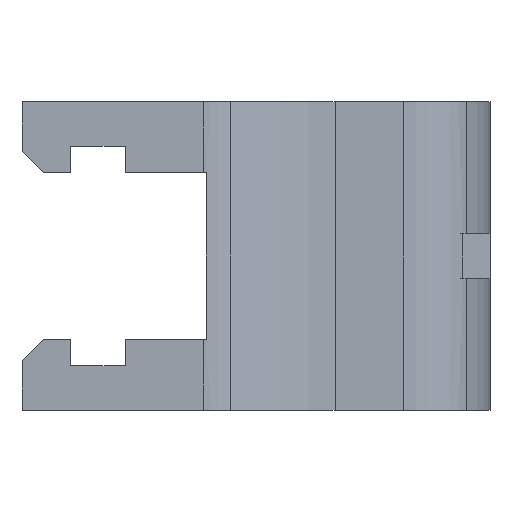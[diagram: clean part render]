
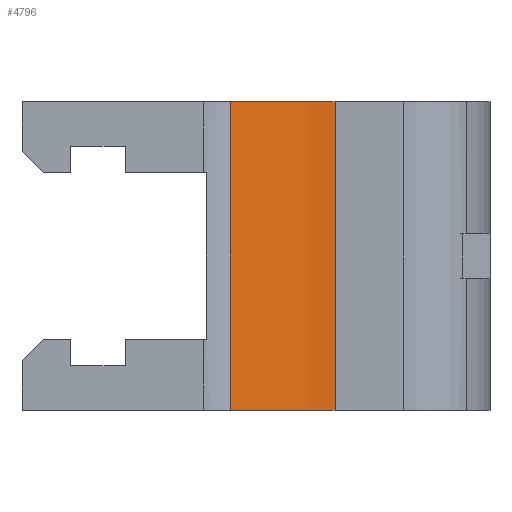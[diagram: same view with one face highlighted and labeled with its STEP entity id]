
A CAD part, left-side view. The second image highlights one B-rep face of the part: STEP entity #4796.
In plain terms, the highlighted cylindrical face has radius 8 mm (diameter 16 mm), a partial arc.
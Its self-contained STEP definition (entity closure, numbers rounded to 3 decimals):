
#27 = ORIENTED_EDGE ( 'NONE', *, *, #6730, .T. ) ;
#461 = CYLINDRICAL_SURFACE ( 'NONE', #3789, 8. ) ;
#752 = VERTEX_POINT ( 'NONE', #1226 ) ;
#824 = CIRCLE ( 'NONE', #3809, 8. ) ;
#1023 = FACE_OUTER_BOUND ( 'NONE', #6643, .T. ) ;
#1146 = CARTESIAN_POINT ( 'NONE',  ( -12.25, -5.311, -6.2 ) ) ;
#1226 = CARTESIAN_POINT ( 'NONE',  ( -11.05, -9.525, -6.2 ) ) ;
#1239 = VERTEX_POINT ( 'NONE', #1967 ) ;
#1353 = EDGE_CURVE ( 'NONE', #752, #3707, #7347, .T. ) ;
#1580 = CARTESIAN_POINT ( 'NONE',  ( -11.05, -9.525, 6.2 ) ) ;
#1695 = ORIENTED_EDGE ( 'NONE', *, *, #1353, .T. ) ;
#1967 = CARTESIAN_POINT ( 'NONE',  ( -12.25, -5.311, -6.2 ) ) ;
#2150 = CARTESIAN_POINT ( 'NONE',  ( -19.05, -9.525, -6.2 ) ) ;
#2224 = CARTESIAN_POINT ( 'NONE',  ( -12.25, -5.311, 6.2 ) ) ;
#2375 = CIRCLE ( 'NONE', #6802, 8. ) ;
#2680 = CARTESIAN_POINT ( 'NONE',  ( -19.05, -9.525, 6.2 ) ) ;
#3228 = DIRECTION ( 'NONE',  ( 0., 0., 1. ) ) ;
#3401 = ORIENTED_EDGE ( 'NONE', *, *, #7105, .T. ) ;
#3416 = ORIENTED_EDGE ( 'NONE', *, *, #4908, .F. ) ;
#3707 = VERTEX_POINT ( 'NONE', #1580 ) ;
#3789 = AXIS2_PLACEMENT_3D ( 'NONE', #2150, #3228, #6748 ) ;
#3809 = AXIS2_PLACEMENT_3D ( 'NONE', #7275, #4924, #7199 ) ;
#3859 = DIRECTION ( 'NONE',  ( 0., 0., 1. ) ) ;
#4509 = LINE ( 'NONE', #1146, #6081 ) ;
#4582 = VECTOR ( 'NONE', #3859, 1000. ) ;
#4796 = ADVANCED_FACE ( 'NONE', ( #1023 ), #461, .F. ) ;
#4908 = EDGE_CURVE ( 'NONE', #752, #1239, #824, .T. ) ;
#4924 = DIRECTION ( 'NONE',  ( 0., 0., 1. ) ) ;
#5024 = DIRECTION ( 'NONE',  ( -1., 0., 0. ) ) ;
#5058 = DIRECTION ( 'NONE',  ( 0., 0., 1. ) ) ;
#5603 = DIRECTION ( 'NONE',  ( 0., 0., -1. ) ) ;
#5635 = CARTESIAN_POINT ( 'NONE',  ( -11.05, -9.525, -6.2 ) ) ;
#6081 = VECTOR ( 'NONE', #5603, 1000. ) ;
#6643 = EDGE_LOOP ( 'NONE', ( #3401, #27, #3416, #1695 ) ) ;
#6730 = EDGE_CURVE ( 'NONE', #6806, #1239, #4509, .T. ) ;
#6748 = DIRECTION ( 'NONE',  ( 1., 0., 0. ) ) ;
#6802 = AXIS2_PLACEMENT_3D ( 'NONE', #2680, #5058, #5024 ) ;
#6806 = VERTEX_POINT ( 'NONE', #2224 ) ;
#7105 = EDGE_CURVE ( 'NONE', #3707, #6806, #2375, .T. ) ;
#7199 = DIRECTION ( 'NONE',  ( -1., 0., 0. ) ) ;
#7275 = CARTESIAN_POINT ( 'NONE',  ( -19.05, -9.525, -6.2 ) ) ;
#7347 = LINE ( 'NONE', #5635, #4582 ) ;
